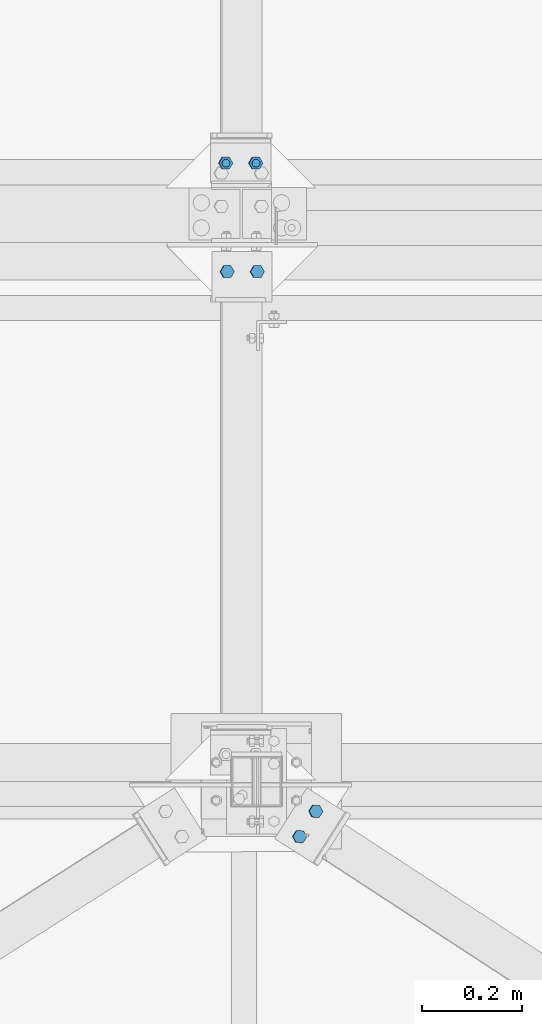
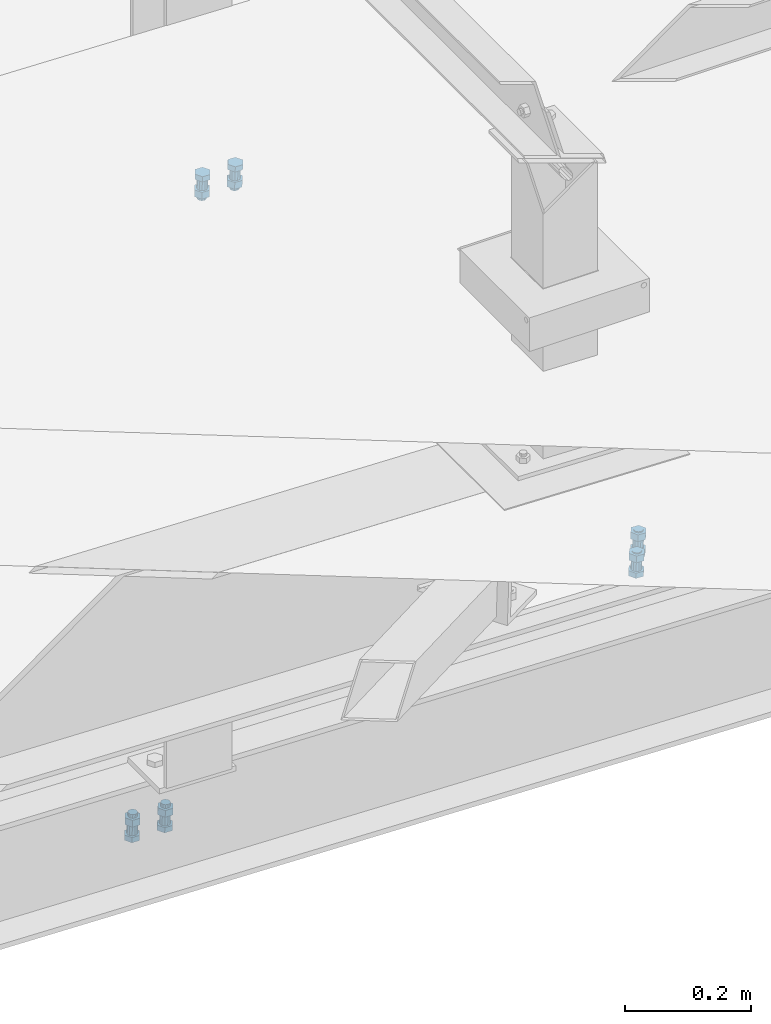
# One storey, part 338 of 3134: 3 mechanical fasteners, 3 elements without a shape of their own.
"""IFC2X3 building model written with IfcOpenShell, lengths in millimetres."""

from ifc_helpers import new_model, si_unit, frame, origin_with_axes, place, context, subcontext, project, spatial, faceted_brep, source, transform, mapped, material, type_object, element, aggregate, save


model = new_model("IFC2X3")

# Units and contexts
model_context = context("Model", 3, precision=1e-05, world=origin_with_axes())
body_context = subcontext(model_context, "Body", "Model", "MODEL_VIEW")
ifc_project = project(units=[si_unit("LENGTHUNIT", "METRE", prefix="MILLI"), si_unit("AREAUNIT", "SQUARE_METRE"), si_unit("VOLUMEUNIT", "CUBIC_METRE"), si_unit("MASSUNIT", "GRAM", prefix="KILO"), si_unit("TIMEUNIT", "SECOND"), si_unit("PLANEANGLEUNIT", "RADIAN"), si_unit("SOLIDANGLEUNIT", "STERADIAN"), si_unit("THERMODYNAMICTEMPERATUREUNIT", "DEGREE_CELSIUS"), si_unit("LUMINOUSINTENSITYUNIT", "LUMEN")], contexts=[model_context])

# Site, building, storey
site_placement = place(None, origin_with_axes())
site = spatial("IfcSite", under=ifc_project, at=site_placement, CompositionType="ELEMENT")
building_placement = place(site_placement, origin_with_axes())
building = spatial("IfcBuilding", under=site, at=building_placement, Name="Undefined", CompositionType="ELEMENT")
storey_placement = place(building_placement, origin_with_axes())
storey = spatial("IfcBuildingStorey", under=building, at=storey_placement, Name="Undefined", CompositionType="ELEMENT", Elevation=0.0)

# Assembly, mechanical fastener
assembly_1_placement = place(storey_placement, origin_with_axes())
assembly_1 = element("IfcElementAssembly", 1, at=assembly_1_placement, inside=storey, Name="IPE240", AssemblyPlace="NOTDEFINED", PredefinedType="RIGID_FRAME")
ifc_material = material(Name="8.8")
mechanical_fastener_type = type_object("IfcMechanicalFastenerType", Name="Bolt assembly")
shared_shape_1 = source(origin_with_axes(), body_context, "Body", "Brep", [
    faceted_brep([(13.856406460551, -15.0026600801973, 0.0), (6.92820323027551, -15.0026600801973, 12.0), (-6.92820323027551, -15.0026600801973, 12.0), (-13.856406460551, -15.0026600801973, 1.69692038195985e-15), (-6.92820323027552, -15.0026600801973, -12.0), (6.9282032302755, -15.0026600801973, -12.0), (6.9282032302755, -5.00266008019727, -12.0), (-6.92820323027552, -5.00266008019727, -12.0), (-13.856406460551, -5.00266008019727, 1.69692038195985e-15), (-6.92820323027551, -5.00266008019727, 12.0), (6.92820323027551, -5.00266008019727, 12.0), (13.856406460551, -5.00266008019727, 0.0), (8.0, -5.00266008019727, 0.0), (6.92820323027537, -5.00266008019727, 4.00000000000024), (3.99999999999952, -5.00266008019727, 6.92820323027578), (-8.29068785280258e-13, -5.00266008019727, 8.0), (-4.00000000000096, -5.00266008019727, 6.92820323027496), (-6.9282032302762, -5.00266008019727, 3.99999999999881), (-8.0, -5.00266008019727, -1.65813757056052e-12), (-6.92820323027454, -5.00266008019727, -4.00000000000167), (-3.99999999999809, -5.00266008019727, -6.92820323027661), (2.47832457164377e-12, -5.00266008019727, -8.0), (4.00000000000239, -5.00266008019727, -6.92820323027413), (6.92820323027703, -5.00266008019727, -3.99999999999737), (6.92820323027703, 34.9973399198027, -3.99999999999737), (4.00000000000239, 34.9973399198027, -6.92820323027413), (2.47832457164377e-12, 34.9973399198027, -8.0), (-3.99999999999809, 34.9973399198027, -6.92820323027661), (-6.92820323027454, 34.9973399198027, -4.00000000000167), (-8.0, 34.9973399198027, -1.65813757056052e-12), (-6.9282032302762, 34.9973399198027, 3.99999999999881), (-4.00000000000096, 34.9973399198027, 6.92820323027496), (-8.29068785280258e-13, 34.9973399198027, 8.0), (3.99999999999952, 34.9973399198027, 6.92820323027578), (6.92820323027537, 34.9973399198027, 4.00000000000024), (8.0, 34.9973399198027, 0.0), (13.856406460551, 14.9999995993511, 0.0), (6.92820323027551, 14.9999995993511, 12.0), (-6.92820323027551, 14.9999995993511, 12.0), (-13.856406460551, 14.9999995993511, 1.69692038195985e-15), (-6.92820323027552, 14.9999995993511, -12.0), (6.9282032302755, 14.9999995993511, -12.0), (6.9282032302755, 27.9999995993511, -12.0), (-6.92820323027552, 27.9999995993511, -12.0), (-13.856406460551, 27.9999995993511, 1.69692038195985e-15), (-6.92820323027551, 27.9999995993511, 12.0), (6.92820323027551, 27.9999995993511, 12.0), (13.856406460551, 27.9999995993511, 0.0)], [[[0, 1, 2, 3, 4, 5]], [[6, 7, 8, 9, 10, 11]], [[0, 11, 10, 1]], [[1, 10, 9, 2]], [[2, 9, 8, 3]], [[3, 8, 7, 4]], [[4, 7, 6, 5]], [[5, 6, 11, 0]], [[12, 13, 14, 15, 16, 17, 18, 19, 20, 21, 22, 23]], [[24, 25, 26, 27, 28, 29, 30, 31, 32, 33, 34, 35]], [[12, 35, 34, 13]], [[13, 34, 33, 14]], [[14, 33, 32, 15]], [[15, 32, 31, 16]], [[16, 31, 30, 17]], [[17, 30, 29, 18]], [[18, 29, 28, 19]], [[19, 28, 27, 20]], [[20, 27, 26, 21]], [[21, 26, 25, 22]], [[22, 25, 24, 23]], [[23, 24, 35, 12]], [[36, 37, 38, 39, 40, 41]], [[42, 43, 44, 45, 46, 47]], [[36, 47, 46, 37]], [[37, 46, 45, 38]], [[38, 45, 44, 39]], [[39, 44, 43, 40]], [[40, 43, 42, 41]], [[41, 42, 47, 36]]]),
    faceted_brep([(9.0, 4.90000583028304, 0.0), (7.79422863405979, 4.90000583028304, 4.50000000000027), (4.49999999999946, 4.90000583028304, 7.79422863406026), (-9.3270238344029e-13, 4.90000583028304, 9.0), (-4.50000000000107, 4.90000583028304, 7.79422863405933), (-7.79422863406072, 4.90000583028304, 4.49999999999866), (-9.0, 4.90000583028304, -1.86540476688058e-12), (-7.79422863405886, 4.90000583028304, -4.50000000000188), (-4.49999999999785, 4.90000583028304, -7.79422863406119), (2.78811514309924e-12, 4.90000583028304, -9.0), (4.50000000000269, 4.90000583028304, -7.7942286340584), (7.79422863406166, 4.90000583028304, -4.49999999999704), (7.79422863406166, 14.9999995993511, -4.49999999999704), (4.50000000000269, 14.9999995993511, -7.7942286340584), (2.78811514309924e-12, 14.9999995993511, -9.0), (-4.49999999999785, 14.9999995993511, -7.79422863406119), (-7.79422863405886, 14.9999995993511, -4.50000000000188), (-9.0, 14.9999995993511, -1.86540476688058e-12), (-7.79422863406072, 14.9999995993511, 4.49999999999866), (-4.50000000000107, 14.9999995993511, 7.79422863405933), (-9.3270238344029e-13, 14.9999995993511, 9.0), (4.49999999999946, 14.9999995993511, 7.79422863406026), (7.79422863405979, 14.9999995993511, 4.50000000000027), (9.0, 14.9999995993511, 0.0), (9.0, -4.90266008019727, 0.0), (7.79422863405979, -4.90266008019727, 4.50000000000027), (4.49999999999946, -4.90266008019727, 7.79422863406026), (-9.3270238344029e-13, -4.90266008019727, 9.0), (-4.50000000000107, -4.90266008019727, 7.79422863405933), (-7.79422863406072, -4.90266008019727, 4.49999999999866), (-9.0, -4.90266008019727, -1.86540476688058e-12), (-7.79422863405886, -4.90266008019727, -4.50000000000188), (-4.49999999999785, -4.90266008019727, -7.79422863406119), (2.78811514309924e-12, -4.90266008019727, -9.0), (4.50000000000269, -4.90266008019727, -7.7942286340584), (7.79422863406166, -4.90266008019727, -4.49999999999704), (7.79422863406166, 5.09733991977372, -4.49999999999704), (4.50000000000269, 5.09733991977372, -7.7942286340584), (2.78811514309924e-12, 5.09733991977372, -9.0), (-4.49999999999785, 5.09733991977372, -7.79422863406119), (-7.79422863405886, 5.09733991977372, -4.50000000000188), (-9.0, 5.09733991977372, -1.86540476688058e-12), (-7.79422863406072, 5.09733991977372, 4.49999999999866), (-4.50000000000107, 5.09733991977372, 7.79422863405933), (-9.3270238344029e-13, 5.09733991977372, 9.0), (4.49999999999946, 5.09733991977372, 7.79422863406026), (7.79422863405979, 5.09733991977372, 4.50000000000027), (9.0, 5.09733991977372, 0.0)], [[[0, 1, 2, 3, 4, 5, 6, 7, 8, 9, 10, 11]], [[12, 13, 14, 15, 16, 17, 18, 19, 20, 21, 22, 23]], [[0, 23, 22, 1]], [[1, 22, 21, 2]], [[2, 21, 20, 3]], [[3, 20, 19, 4]], [[4, 19, 18, 5]], [[5, 18, 17, 6]], [[6, 17, 16, 7]], [[7, 16, 15, 8]], [[8, 15, 14, 9]], [[9, 14, 13, 10]], [[10, 13, 12, 11]], [[11, 12, 23, 0]], [[24, 25, 26, 27, 28, 29, 30, 31, 32, 33, 34, 35]], [[36, 37, 38, 39, 40, 41, 42, 43, 44, 45, 46, 47]], [[24, 47, 46, 25]], [[25, 46, 45, 26]], [[26, 45, 44, 27]], [[27, 44, 43, 28]], [[28, 43, 42, 29]], [[29, 42, 41, 30]], [[30, 41, 40, 31]], [[31, 40, 39, 32]], [[32, 39, 38, 33]], [[33, 38, 37, 34]], [[34, 37, 36, 35]], [[35, 36, 47, 24]]]),
])
mechanical_fastener_1_placement = place(assembly_1_placement, frame((75488.3040564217, 13603.0494718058, 3711.04761508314), z_axis=(1.58005419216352e-05, -0.999999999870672, 2.99998354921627e-06), x_axis=(0.999519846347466, 1.57000007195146e-05, -0.0309851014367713)))
mechanical_fastener_1 = element("IfcMechanicalFastener", 2, at=mechanical_fastener_1_placement, type_object=mechanical_fastener_type, material=ifc_material, Name="Bolt assembly", NominalDiameter=16.0, NominalLength=40.0, context=body_context, shape_type="MappedRepresentation", body=[
    mapped(shared_shape_1, transform((0.0, 0.0, 0.0))),
    mapped(shared_shape_1, transform((59.9999999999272, 0.0, 5.40239852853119e-10))),
])
aggregate(assembly_1, [mechanical_fastener_1])

assembly_2_placement = place(storey_placement, origin_with_axes())
assembly_2 = element("IfcElementAssembly", 3, at=assembly_2_placement, inside=storey, Name="UPN200", AssemblyPlace="NOTDEFINED", PredefinedType="RIGID_FRAME")
shared_shape_2 = source(origin_with_axes(), body_context, "Body", "Brep", [
    faceted_brep([(13.856406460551, -15.0007639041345, 0.0), (6.92820323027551, -15.0007639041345, 12.0), (-6.92820323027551, -15.0007639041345, 12.0), (-13.856406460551, -15.0007639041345, 1.69692038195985e-15), (-6.92820323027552, -15.0007639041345, -12.0), (6.9282032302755, -15.0007639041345, -12.0), (6.9282032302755, -5.00076390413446, -12.0), (-6.92820323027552, -5.00076390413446, -12.0), (-13.856406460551, -5.00076390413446, 1.69692038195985e-15), (-6.92820323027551, -5.00076390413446, 12.0), (6.92820323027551, -5.00076390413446, 12.0), (13.856406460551, -5.00076390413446, 0.0), (8.0, -5.00076390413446, 0.0), (6.92820323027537, -5.00076390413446, 4.00000000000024), (3.99999999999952, -5.00076390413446, 6.92820323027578), (-8.29068785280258e-13, -5.00076390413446, 8.0), (-4.00000000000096, -5.00076390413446, 6.92820323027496), (-6.9282032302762, -5.00076390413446, 3.99999999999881), (-8.0, -5.00076390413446, -1.65813757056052e-12), (-6.92820323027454, -5.00076390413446, -4.00000000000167), (-3.99999999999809, -5.00076390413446, -6.92820323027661), (2.47832457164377e-12, -5.00076390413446, -8.0), (4.00000000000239, -5.00076390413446, -6.92820323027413), (6.92820323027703, -5.00076390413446, -3.99999999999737), (6.92820323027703, 34.9991996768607, -3.99999999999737), (4.00000000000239, 34.9991996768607, -6.92820323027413), (2.47832457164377e-12, 34.9991996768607, -8.0), (-3.99999999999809, 34.9991996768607, -6.92820323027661), (-6.92820323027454, 34.9991996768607, -4.00000000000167), (-8.0, 34.9991996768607, -1.65813757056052e-12), (-6.9282032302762, 34.9991996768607, 3.99999999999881), (-4.00000000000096, 34.9991996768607, 6.92820323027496), (-8.29068785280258e-13, 34.9991996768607, 8.0), (3.99999999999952, 34.9991996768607, 6.92820323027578), (6.92820323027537, 34.9991996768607, 4.00000000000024), (8.0, 34.9991996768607, 0.0), (13.856406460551, 14.9999995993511, 0.0), (6.92820323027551, 14.9999995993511, 12.0), (-6.92820323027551, 14.9999995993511, 12.0), (-13.856406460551, 14.9999995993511, 1.69692038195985e-15), (-6.92820323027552, 14.9999995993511, -12.0), (6.9282032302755, 14.9999995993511, -12.0), (6.9282032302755, 27.9999995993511, -12.0), (-6.92820323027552, 27.9999995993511, -12.0), (-13.856406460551, 27.9999995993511, 1.69692038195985e-15), (-6.92820323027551, 27.9999995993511, 12.0), (6.92820323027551, 27.9999995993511, 12.0), (13.856406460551, 27.9999995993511, 0.0)], [[[0, 1, 2, 3, 4, 5]], [[6, 7, 8, 9, 10, 11]], [[0, 11, 10, 1]], [[1, 10, 9, 2]], [[2, 9, 8, 3]], [[3, 8, 7, 4]], [[4, 7, 6, 5]], [[5, 6, 11, 0]], [[12, 13, 14, 15, 16, 17, 18, 19, 20, 21, 22, 23]], [[24, 25, 26, 27, 28, 29, 30, 31, 32, 33, 34, 35]], [[12, 35, 34, 13]], [[13, 34, 33, 14]], [[14, 33, 32, 15]], [[15, 32, 31, 16]], [[16, 31, 30, 17]], [[17, 30, 29, 18]], [[18, 29, 28, 19]], [[19, 28, 27, 20]], [[20, 27, 26, 21]], [[21, 26, 25, 22]], [[22, 25, 24, 23]], [[23, 24, 35, 12]], [[36, 37, 38, 39, 40, 41]], [[42, 43, 44, 45, 46, 47]], [[36, 47, 46, 37]], [[37, 46, 45, 38]], [[38, 45, 44, 39]], [[39, 44, 43, 40]], [[40, 43, 42, 41]], [[41, 42, 47, 36]]]),
    faceted_brep([(9.0, 4.90000583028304, 0.0), (7.79422863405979, 4.90000583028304, 4.50000000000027), (4.49999999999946, 4.90000583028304, 7.79422863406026), (-9.3270238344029e-13, 4.90000583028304, 9.0), (-4.50000000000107, 4.90000583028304, 7.79422863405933), (-7.79422863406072, 4.90000583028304, 4.49999999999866), (-9.0, 4.90000583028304, -1.86540476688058e-12), (-7.79422863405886, 4.90000583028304, -4.50000000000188), (-4.49999999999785, 4.90000583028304, -7.79422863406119), (2.78811514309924e-12, 4.90000583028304, -9.0), (4.50000000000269, 4.90000583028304, -7.7942286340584), (7.79422863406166, 4.90000583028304, -4.49999999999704), (7.79422863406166, 14.9999995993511, -4.49999999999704), (4.50000000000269, 14.9999995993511, -7.7942286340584), (2.78811514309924e-12, 14.9999995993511, -9.0), (-4.49999999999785, 14.9999995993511, -7.79422863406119), (-7.79422863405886, 14.9999995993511, -4.50000000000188), (-9.0, 14.9999995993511, -1.86540476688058e-12), (-7.79422863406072, 14.9999995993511, 4.49999999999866), (-4.50000000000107, 14.9999995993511, 7.79422863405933), (-9.3270238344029e-13, 14.9999995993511, 9.0), (4.49999999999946, 14.9999995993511, 7.79422863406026), (7.79422863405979, 14.9999995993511, 4.50000000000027), (9.0, 14.9999995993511, 0.0), (9.0, -4.90076390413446, 0.0), (7.79422863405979, -4.90076390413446, 4.50000000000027), (4.49999999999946, -4.90076390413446, 7.79422863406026), (-9.3270238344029e-13, -4.90076390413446, 9.0), (-4.50000000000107, -4.90076390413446, 7.79422863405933), (-7.79422863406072, -4.90076390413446, 4.49999999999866), (-9.0, -4.90076390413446, -1.86540476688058e-12), (-7.79422863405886, -4.90076390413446, -4.50000000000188), (-4.49999999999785, -4.90076390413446, -7.79422863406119), (2.78811514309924e-12, -4.90076390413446, -9.0), (4.50000000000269, -4.90076390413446, -7.7942286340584), (7.79422863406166, -4.90076390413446, -4.49999999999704), (7.79422863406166, 5.0992360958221, -4.49999999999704), (4.50000000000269, 5.0992360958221, -7.7942286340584), (2.78811514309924e-12, 5.0992360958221, -9.0), (-4.49999999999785, 5.0992360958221, -7.79422863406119), (-7.79422863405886, 5.0992360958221, -4.50000000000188), (-9.0, 5.0992360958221, -1.86540476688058e-12), (-7.79422863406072, 5.0992360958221, 4.49999999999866), (-4.50000000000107, 5.0992360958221, 7.79422863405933), (-9.3270238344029e-13, 5.0992360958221, 9.0), (4.49999999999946, 5.0992360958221, 7.79422863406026), (7.79422863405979, 5.0992360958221, 4.50000000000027), (9.0, 5.0992360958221, 0.0)], [[[0, 1, 2, 3, 4, 5, 6, 7, 8, 9, 10, 11]], [[12, 13, 14, 15, 16, 17, 18, 19, 20, 21, 22, 23]], [[0, 23, 22, 1]], [[1, 22, 21, 2]], [[2, 21, 20, 3]], [[3, 20, 19, 4]], [[4, 19, 18, 5]], [[5, 18, 17, 6]], [[6, 17, 16, 7]], [[7, 16, 15, 8]], [[8, 15, 14, 9]], [[9, 14, 13, 10]], [[10, 13, 12, 11]], [[11, 12, 23, 0]], [[24, 25, 26, 27, 28, 29, 30, 31, 32, 33, 34, 35]], [[36, 37, 38, 39, 40, 41, 42, 43, 44, 45, 46, 47]], [[24, 47, 46, 25]], [[25, 46, 45, 26]], [[26, 45, 44, 27]], [[27, 44, 43, 28]], [[28, 43, 42, 29]], [[29, 42, 41, 30]], [[30, 41, 40, 31]], [[31, 40, 39, 32]], [[32, 39, 38, 33]], [[33, 38, 37, 34]], [[34, 37, 36, 35]], [[35, 36, 47, 24]]]),
])
mechanical_fastener_2_placement = place(assembly_2_placement, frame((75491.7135017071, 13386.5008128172, 5100.26133895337), z_axis=(1.55835586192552e-05, 0.999999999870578, -3.99949066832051e-06), x_axis=(0.999519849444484, -1.57000007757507e-05, -0.0309850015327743)))
mechanical_fastener_2 = element("IfcMechanicalFastener", 4, at=mechanical_fastener_2_placement, type_object=mechanical_fastener_type, material=ifc_material, Name="Bolt assembly", NominalDiameter=16.0, NominalLength=40.0, context=body_context, shape_type="MappedRepresentation", body=[
    mapped(shared_shape_2, transform((0.0, 0.0, 0.0))),
    mapped(shared_shape_2, transform((59.9999999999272, 0.0, 5.40239852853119e-10))),
])
aggregate(assembly_2, [mechanical_fastener_2])

assembly_3_placement = place(storey_placement, origin_with_axes())
assembly_3 = element("IfcElementAssembly", 5, at=assembly_3_placement, inside=storey, Name="300", AssemblyPlace="NOTDEFINED", PredefinedType="RIGID_FRAME")
shared_shape_3 = source(origin_with_axes(), body_context, "Body", "Brep", [
    faceted_brep([(13.856406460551, -15.0000144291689, 0.0), (6.92820323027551, -15.0000144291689, 12.0), (-6.92820323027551, -15.0000144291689, 12.0), (-13.856406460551, -15.0000144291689, 1.69692038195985e-15), (-6.92820323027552, -15.0000144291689, -12.0), (6.9282032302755, -15.0000144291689, -12.0), (6.9282032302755, -5.00001442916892, -12.0), (-6.92820323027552, -5.00001442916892, -12.0), (-13.856406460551, -5.00001442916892, 1.69692038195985e-15), (-6.92820323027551, -5.00001442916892, 12.0), (6.92820323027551, -5.00001442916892, 12.0), (13.856406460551, -5.00001442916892, 0.0), (8.0, -5.00001442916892, 0.0), (6.92820323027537, -5.00001442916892, 4.00000000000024), (3.99999999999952, -5.00001442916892, 6.92820323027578), (-8.29068785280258e-13, -5.00001442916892, 8.0), (-4.00000000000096, -5.00001442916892, 6.92820323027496), (-6.9282032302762, -5.00001442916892, 3.99999999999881), (-8.0, -5.00001442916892, -1.65813757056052e-12), (-6.92820323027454, -5.00001442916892, -4.00000000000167), (-3.99999999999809, -5.00001442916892, -6.92820323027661), (2.47832457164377e-12, -5.00001442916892, -8.0), (4.00000000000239, -5.00001442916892, -6.92820323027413), (6.92820323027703, -5.00001442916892, -3.99999999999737), (6.92820323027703, 29.9999969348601, -3.99999999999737), (4.00000000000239, 29.9999969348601, -6.92820323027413), (2.47832457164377e-12, 29.9999969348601, -8.0), (-3.99999999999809, 29.9999969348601, -6.92820323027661), (-6.92820323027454, 29.9999969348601, -4.00000000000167), (-8.0, 29.9999969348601, -1.65813757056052e-12), (-6.9282032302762, 29.9999969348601, 3.99999999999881), (-4.00000000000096, 29.9999969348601, 6.92820323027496), (-8.29068785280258e-13, 29.9999969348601, 8.0), (3.99999999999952, 29.9999969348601, 6.92820323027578), (6.92820323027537, 29.9999969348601, 4.00000000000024), (8.0, 29.9999969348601, 0.0), (13.856406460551, 14.9999995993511, 0.0), (6.92820323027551, 14.9999995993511, 12.0), (-6.92820323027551, 14.9999995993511, 12.0), (-13.856406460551, 14.9999995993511, 1.69692038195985e-15), (-6.92820323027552, 14.9999995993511, -12.0), (6.9282032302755, 14.9999995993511, -12.0), (6.9282032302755, 27.9999995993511, -12.0), (-6.92820323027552, 27.9999995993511, -12.0), (-13.856406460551, 27.9999995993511, 1.69692038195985e-15), (-6.92820323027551, 27.9999995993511, 12.0), (6.92820323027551, 27.9999995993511, 12.0), (13.856406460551, 27.9999995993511, 0.0)], [[[0, 1, 2, 3, 4, 5]], [[6, 7, 8, 9, 10, 11]], [[0, 11, 10, 1]], [[1, 10, 9, 2]], [[2, 9, 8, 3]], [[3, 8, 7, 4]], [[4, 7, 6, 5]], [[5, 6, 11, 0]], [[12, 13, 14, 15, 16, 17, 18, 19, 20, 21, 22, 23]], [[24, 25, 26, 27, 28, 29, 30, 31, 32, 33, 34, 35]], [[12, 35, 34, 13]], [[13, 34, 33, 14]], [[14, 33, 32, 15]], [[15, 32, 31, 16]], [[16, 31, 30, 17]], [[17, 30, 29, 18]], [[18, 29, 28, 19]], [[19, 28, 27, 20]], [[20, 27, 26, 21]], [[21, 26, 25, 22]], [[22, 25, 24, 23]], [[23, 24, 35, 12]], [[36, 37, 38, 39, 40, 41]], [[42, 43, 44, 45, 46, 47]], [[36, 47, 46, 37]], [[37, 46, 45, 38]], [[38, 45, 44, 39]], [[39, 44, 43, 40]], [[40, 43, 42, 41]], [[41, 42, 47, 36]]]),
    faceted_brep([(9.0, 4.90000583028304, 0.0), (7.79422863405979, 4.90000583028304, 4.50000000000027), (4.49999999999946, 4.90000583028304, 7.79422863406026), (-9.3270238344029e-13, 4.90000583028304, 9.0), (-4.50000000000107, 4.90000583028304, 7.79422863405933), (-7.79422863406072, 4.90000583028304, 4.49999999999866), (-9.0, 4.90000583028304, -1.86540476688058e-12), (-7.79422863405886, 4.90000583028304, -4.50000000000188), (-4.49999999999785, 4.90000583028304, -7.79422863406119), (2.78811514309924e-12, 4.90000583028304, -9.0), (4.50000000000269, 4.90000583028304, -7.7942286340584), (7.79422863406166, 4.90000583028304, -4.49999999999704), (7.79422863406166, 14.9999995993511, -4.49999999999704), (4.50000000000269, 14.9999995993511, -7.7942286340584), (2.78811514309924e-12, 14.9999995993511, -9.0), (-4.49999999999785, 14.9999995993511, -7.79422863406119), (-7.79422863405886, 14.9999995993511, -4.50000000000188), (-9.0, 14.9999995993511, -1.86540476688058e-12), (-7.79422863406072, 14.9999995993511, 4.49999999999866), (-4.50000000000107, 14.9999995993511, 7.79422863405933), (-9.3270238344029e-13, 14.9999995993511, 9.0), (4.49999999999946, 14.9999995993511, 7.79422863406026), (7.79422863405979, 14.9999995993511, 4.50000000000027), (9.0, 14.9999995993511, 0.0), (9.0, -4.90001442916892, 0.0), (7.79422863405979, -4.90001442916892, 4.50000000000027), (4.49999999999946, -4.90001442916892, 7.79422863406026), (-9.3270238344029e-13, -4.90001442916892, 9.0), (-4.50000000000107, -4.90001442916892, 7.79422863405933), (-7.79422863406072, -4.90001442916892, 4.49999999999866), (-9.0, -4.90001442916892, -1.86540476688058e-12), (-7.79422863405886, -4.90001442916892, -4.50000000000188), (-4.49999999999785, -4.90001442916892, -7.79422863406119), (2.78811514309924e-12, -4.90001442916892, -9.0), (4.50000000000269, -4.90001442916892, -7.7942286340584), (7.79422863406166, -4.90001442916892, -4.49999999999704), (7.79422863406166, 5.10000199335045, -4.49999999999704), (4.50000000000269, 5.10000199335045, -7.7942286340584), (2.78811514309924e-12, 5.10000199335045, -9.0), (-4.49999999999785, 5.10000199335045, -7.79422863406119), (-7.79422863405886, 5.10000199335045, -4.50000000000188), (-9.0, 5.10000199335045, -1.86540476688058e-12), (-7.79422863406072, 5.10000199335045, 4.49999999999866), (-4.50000000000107, 5.10000199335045, 7.79422863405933), (-9.3270238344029e-13, 5.10000199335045, 9.0), (4.49999999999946, 5.10000199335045, 7.79422863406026), (7.79422863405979, 5.10000199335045, 4.50000000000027), (9.0, 5.10000199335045, 0.0)], [[[0, 1, 2, 3, 4, 5, 6, 7, 8, 9, 10, 11]], [[12, 13, 14, 15, 16, 17, 18, 19, 20, 21, 22, 23]], [[0, 23, 22, 1]], [[1, 22, 21, 2]], [[2, 21, 20, 3]], [[3, 20, 19, 4]], [[4, 19, 18, 5]], [[5, 18, 17, 6]], [[6, 17, 16, 7]], [[7, 16, 15, 8]], [[8, 15, 14, 9]], [[9, 14, 13, 10]], [[10, 13, 12, 11]], [[11, 12, 23, 0]], [[24, 25, 26, 27, 28, 29, 30, 31, 32, 33, 34, 35]], [[36, 37, 38, 39, 40, 41, 42, 43, 44, 45, 46, 47]], [[24, 47, 46, 25]], [[25, 46, 45, 26]], [[26, 45, 44, 27]], [[27, 44, 43, 28]], [[28, 43, 42, 29]], [[29, 42, 41, 30]], [[30, 41, 40, 31]], [[31, 40, 39, 32]], [[32, 39, 38, 33]], [[33, 38, 37, 34]], [[34, 37, 36, 35]], [[35, 36, 47, 24]]]),
])
mechanical_fastener_3_placement = place(assembly_3_placement, frame((75635.8418387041, 12259.5551161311, 4985.74128757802), z_axis=(0.843130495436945, -0.53707338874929, -0.0261369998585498), x_axis=(0.536815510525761, 0.843535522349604, -0.0166412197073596)))
mechanical_fastener_3 = element("IfcMechanicalFastener", 6, at=mechanical_fastener_3_placement, type_object=mechanical_fastener_type, material=ifc_material, Name="Bolt assembly", NominalDiameter=16.0, NominalLength=35.0, context=body_context, shape_type="MappedRepresentation", body=[
    mapped(shared_shape_3, transform((0.0, 0.0, 0.0))),
    mapped(shared_shape_3, transform((59.9999999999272, 0.0, 5.40239852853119e-10))),
])
aggregate(assembly_3, [mechanical_fastener_3])

save(model, "model.ifc")
